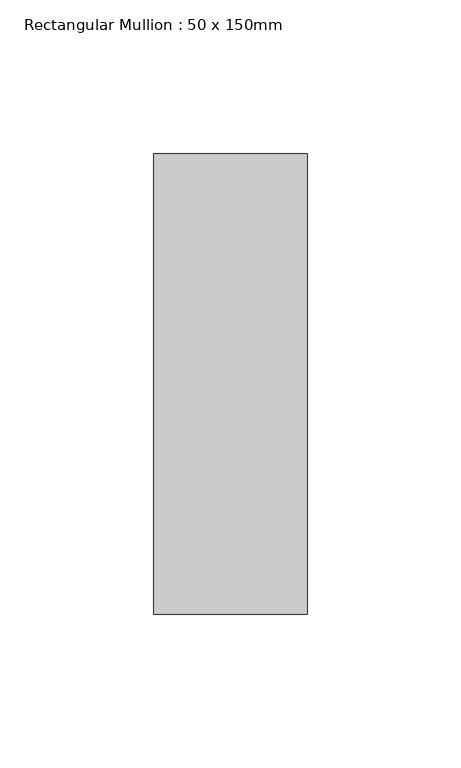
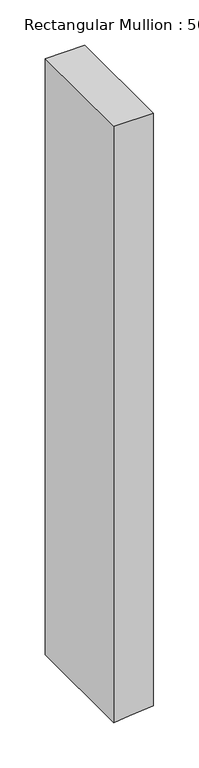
"""IFC4 building model written with IfcOpenShell, lengths in millimetres: member geometry, Rectangular Mullion : 50 x 150mm."""

from ifc_helpers import new_model, si_unit, frame, origin, place, context, project, spatial, polyline, outline, extrude, source, transform, mapped, element, save


def rectangular_mullion_50_x_150mm_28211b4c(model_context):
    return source(origin(), model_context, "Body", "SweptSolid", [
        extrude(outline(polyline([(0.0, 25.0), (0.0, -25.0), (-800.42907, -25.0), (-798.4183028, -5.0022633), (-795.4015832, 25.0), (0.0, 25.0)])), frame((0.0, -75.0, 0.0), z_axis=(0.0, 1.0, 0.0), x_axis=(0.0, 0.0, 1.0)), (0.0, 0.0, 1.0), 150.0),
    ])


if __name__ == "__main__":
    model = new_model("IFC4")
    model_context = context("Model", 3, world=origin())
    ifc_project = project(units=[si_unit("LENGTHUNIT", "METRE", prefix="MILLI")], contexts=[model_context])
    site = spatial("IfcSite", under=ifc_project)
    building = spatial("IfcBuilding", under=site)
    placement = place(None, origin())
    rectangular_mullion_50_x_150mm_shape = rectangular_mullion_50_x_150mm_28211b4c(model_context)
    element("IfcMember", 1, ObjectType="Rectangular Mullion : 50 x 150mm", at=placement, inside=building, context=model_context, shape_type="MappedRepresentation", body=[
        mapped(rectangular_mullion_50_x_150mm_shape, transform((0.0, 0.0, 0.0), x_axis=(1.0, 0.0, 0.0), y_axis=(0.0, 1.0, 0.0), z_axis=(0.0, 0.0, 1.0))),
    ])
    save(model, "model.ifc")
